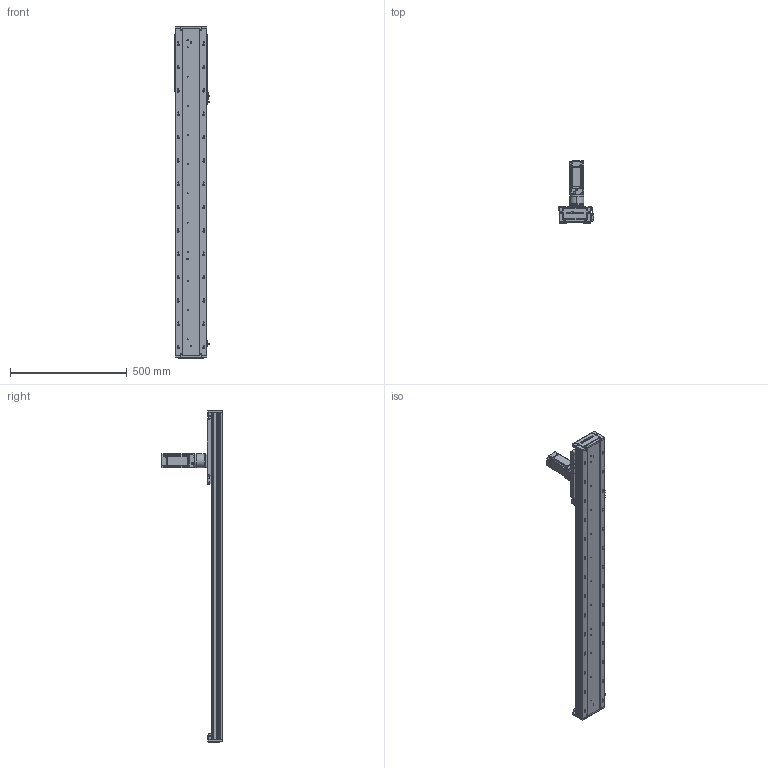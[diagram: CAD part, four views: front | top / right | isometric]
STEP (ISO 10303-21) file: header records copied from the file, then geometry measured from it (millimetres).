
FILE_DESCRIPTION (( 'STEP AP203' ), '1' );
FILE_NAME ('RY140-C-250-UK.SLDASM_1050.step', '2022-03-12T01:58:50', ( '' ), ( '' ), 'SwSTEP 2.0', 'SolidWorks 2016', '' );
FILE_SCHEMA (( 'CONFIG_CONTROL_DESIGN' ));
Length unit declared in the file: millimetre
Products named in the file (12): RY140-喘沭裔啣; 140蚥薯蝶輸; 15; RY140-喘謫萇儂覃誹啣; RY140-喘沭賑輸; 60ZDF珨撰俋倛芞T1 200W M4; RY140-300齿条模组型材底座_1050; 絳寢賑輸EGH15; RY140-C-250-UK.SLDASM_1050; RY120外置感应片(140共用）; RY140-絳寢EGH15-300-MK_1050; 覜茼ん672
Assembly tree (21 placements, depth 2):
  RY140-C-250-UK.SLDASM_1050
    RY140-300齿条模组型材底座_1050
    RY140-絳寢EGH15-300-MK_1050  x2
    絳寢賑輸EGH15  x6
    RY140-喘沭裔啣  x2
    覜茼ん672  x3
    RY140-喘沭賑輸
    RY120外置感应片(140共用）
    RY140-喘謫萇儂覃誹啣
    140蚥薯蝶輸  x2
    60ZDF珨撰俋倛芞T1 200W M4
    15
Bounding box: 153.7 x 263.5 x 1422 mm (x, y, z)
Volume: 5173525.1 mm3; surface area: 1355857.3 mm2
Topology: 21 solids, 21 shells, 3444 faces, 9150 edges, 5920 vertices
Faces by surface type: plane 1650, cylinder 1508, cone 240, bspline 46
Entity records: 77091 total; most frequent: CARTESIAN_POINT 16788, DIRECTION 12279, ORIENTED_EDGE 12226, EDGE_CURVE 6113, AXIS2_PLACEMENT_3D 4376, VERTEX_POINT 4001, VECTOR 3527, LINE 3527
